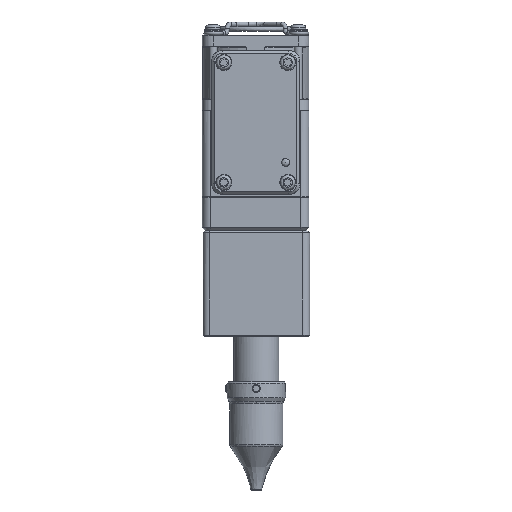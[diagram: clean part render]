
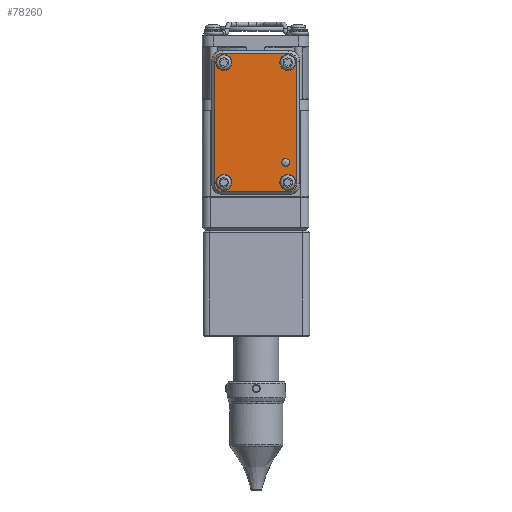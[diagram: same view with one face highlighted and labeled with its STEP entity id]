
A CAD part, front view. The second image highlights one B-rep face of the part: STEP entity #78260.
In plain terms, the highlighted free-form (B-spline) face has degree [1, 1] with [2, 2] control points.
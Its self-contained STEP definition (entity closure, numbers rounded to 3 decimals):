
#77972=CARTESIAN_POINT('',(-15.731,-33.699,63.381));
#77973=VERTEX_POINT('',#77972);
#77979=CARTESIAN_POINT('',(-12.731,-33.699,66.381));
#77980=VERTEX_POINT('',#77979);
#77981=CARTESIAN_POINT('',(-15.731,-33.699,63.381));
#77982=CARTESIAN_POINT('',(-15.731,-33.699,66.381));
#77983=CARTESIAN_POINT('',(-12.731,-33.699,66.381));
#77984=(BOUNDED_CURVE()B_SPLINE_CURVE(2,(#77981,#77982,#77983),.CIRCULAR_ARC.,.F.,.U.)B_SPLINE_CURVE_WITH_KNOTS((3,3),(0.,1.),.UNSPECIFIED.)CURVE()GEOMETRIC_REPRESENTATION_ITEM()RATIONAL_B_SPLINE_CURVE((1.,0.707,1.))REPRESENTATION_ITEM(''));
#77985=EDGE_CURVE('',#77973,#77980,#77984,.T.);
#78003=CARTESIAN_POINT('',(-15.731,-33.699,17.381));
#78004=VERTEX_POINT('',#78003);
#78010=CARTESIAN_POINT('',(-15.731,-33.699,17.381));
#78011=CARTESIAN_POINT('',(-15.731,-33.699,63.381));
#78012=B_SPLINE_CURVE_WITH_KNOTS('',1,(#78010,#78011),.POLYLINE_FORM.,.F.,.U.,(2,2),(0.,1.),.UNSPECIFIED.);
#78013=EDGE_CURVE('',#78004,#77973,#78012,.T.);
#78031=CARTESIAN_POINT('',(-12.731,-33.699,14.381));
#78032=VERTEX_POINT('',#78031);
#78038=CARTESIAN_POINT('',(-12.731,-33.699,14.381));
#78039=CARTESIAN_POINT('',(-13.974,-33.699,14.381));
#78040=CARTESIAN_POINT('',(-14.852,-33.699,15.26));
#78041=CARTESIAN_POINT('',(-15.731,-33.699,16.139));
#78042=CARTESIAN_POINT('',(-15.731,-33.699,17.381));
#78043=(BOUNDED_CURVE()B_SPLINE_CURVE(2,(#78038,#78039,#78040,#78041,#78042),.CIRCULAR_ARC.,.F.,.U.)B_SPLINE_CURVE_WITH_KNOTS((3,2,3),(0.,0.5,1.),.UNSPECIFIED.)CURVE()GEOMETRIC_REPRESENTATION_ITEM()RATIONAL_B_SPLINE_CURVE((1.,0.924,1.,0.924,1.))REPRESENTATION_ITEM(''));
#78044=EDGE_CURVE('',#78032,#78004,#78043,.T.);
#78056=CARTESIAN_POINT('',(12.269,-33.699,14.381));
#78057=VERTEX_POINT('',#78056);
#78063=CARTESIAN_POINT('',(12.269,-33.699,14.381));
#78064=CARTESIAN_POINT('',(-12.731,-33.699,14.381));
#78065=B_SPLINE_CURVE_WITH_KNOTS('',1,(#78063,#78064),.POLYLINE_FORM.,.F.,.U.,(2,2),(0.,1.),.UNSPECIFIED.);
#78066=EDGE_CURVE('',#78057,#78032,#78065,.T.);
#78084=CARTESIAN_POINT('',(15.269,-33.699,17.381));
#78085=VERTEX_POINT('',#78084);
#78091=CARTESIAN_POINT('',(15.269,-33.699,17.381));
#78092=CARTESIAN_POINT('',(15.269,-33.699,16.139));
#78093=CARTESIAN_POINT('',(14.39,-33.699,15.26));
#78094=CARTESIAN_POINT('',(13.512,-33.699,14.381));
#78095=CARTESIAN_POINT('',(12.269,-33.699,14.381));
#78096=(BOUNDED_CURVE()B_SPLINE_CURVE(2,(#78091,#78092,#78093,#78094,#78095),.CIRCULAR_ARC.,.F.,.U.)B_SPLINE_CURVE_WITH_KNOTS((3,2,3),(0.,0.5,1.),.UNSPECIFIED.)CURVE()GEOMETRIC_REPRESENTATION_ITEM()RATIONAL_B_SPLINE_CURVE((1.,0.924,1.,0.924,1.))REPRESENTATION_ITEM(''));
#78097=EDGE_CURVE('',#78085,#78057,#78096,.T.);
#78109=CARTESIAN_POINT('',(15.269,-33.699,63.381));
#78110=VERTEX_POINT('',#78109);
#78116=CARTESIAN_POINT('',(15.269,-33.699,63.381));
#78117=CARTESIAN_POINT('',(15.269,-33.699,17.381));
#78118=B_SPLINE_CURVE_WITH_KNOTS('',1,(#78116,#78117),.POLYLINE_FORM.,.F.,.U.,(2,2),(0.,1.),.UNSPECIFIED.);
#78119=EDGE_CURVE('',#78110,#78085,#78118,.T.);
#78137=CARTESIAN_POINT('',(12.269,-33.699,66.381));
#78138=VERTEX_POINT('',#78137);
#78144=CARTESIAN_POINT('',(12.269,-33.699,66.381));
#78145=CARTESIAN_POINT('',(13.512,-33.699,66.381));
#78146=CARTESIAN_POINT('',(14.39,-33.699,65.503));
#78147=CARTESIAN_POINT('',(15.269,-33.699,64.624));
#78148=CARTESIAN_POINT('',(15.269,-33.699,63.381));
#78149=(BOUNDED_CURVE()B_SPLINE_CURVE(2,(#78144,#78145,#78146,#78147,#78148),.CIRCULAR_ARC.,.F.,.U.)B_SPLINE_CURVE_WITH_KNOTS((3,2,3),(0.,0.5,1.),.UNSPECIFIED.)CURVE()GEOMETRIC_REPRESENTATION_ITEM()RATIONAL_B_SPLINE_CURVE((1.,0.924,1.,0.924,1.))REPRESENTATION_ITEM(''));
#78150=EDGE_CURVE('',#78138,#78110,#78149,.T.);
#78167=CARTESIAN_POINT('',(-12.731,-33.699,66.381));
#78168=CARTESIAN_POINT('',(12.269,-33.699,66.381));
#78169=B_SPLINE_CURVE_WITH_KNOTS('',1,(#78167,#78168),.POLYLINE_FORM.,.F.,.U.,(2,2),(0.,1.),.UNSPECIFIED.);
#78170=EDGE_CURVE('',#77980,#78138,#78169,.T.);
#78175=CARTESIAN_POINT('',(-19.431,-33.699,10.681));
#78176=CARTESIAN_POINT('',(-19.431,-33.699,70.081));
#78177=CARTESIAN_POINT('',(39.969,-33.699,10.681));
#78178=CARTESIAN_POINT('',(39.969,-33.699,70.081));
#78179=B_SPLINE_SURFACE_WITH_KNOTS('',1,1,((#78175,#78176),(#78177,#78178)),.PLANE_SURF.,.F.,.F.,.U.,(2,2),(2,2),(0.,1.),(0.,1.),.UNSPECIFIED.);
#78180=ORIENTED_EDGE('',*,*,#77985,.F.);
#78181=ORIENTED_EDGE('',*,*,#78013,.F.);
#78182=ORIENTED_EDGE('',*,*,#78044,.F.);
#78183=ORIENTED_EDGE('',*,*,#78066,.F.);
#78184=ORIENTED_EDGE('',*,*,#78097,.F.);
#78185=ORIENTED_EDGE('',*,*,#78119,.F.);
#78186=ORIENTED_EDGE('',*,*,#78150,.F.);
#78187=ORIENTED_EDGE('',*,*,#78170,.F.);
#78188=EDGE_LOOP('',(#78180,#78181,#78182,#78183,#78184,#78185,#78186,#78187));
#78189=FACE_OUTER_BOUND('',#78188,.T.);
#78190=CARTESIAN_POINT('',(14.769,-33.699,17.881));
#78191=VERTEX_POINT('',#78190);
#78192=CARTESIAN_POINT('',(14.769,-33.699,17.881));
#78193=CARTESIAN_POINT('',(14.769,-33.699,12.685));
#78194=CARTESIAN_POINT('',(10.269,-33.699,15.283));
#78195=CARTESIAN_POINT('',(5.769,-33.699,17.881));
#78196=CARTESIAN_POINT('',(10.269,-33.699,20.479));
#78197=CARTESIAN_POINT('',(14.769,-33.699,23.078));
#78198=CARTESIAN_POINT('',(14.769,-33.699,17.881));
#78199=(BOUNDED_CURVE()B_SPLINE_CURVE(2,(#78192,#78193,#78194,#78195,#78196,#78197,#78198),.CIRCULAR_ARC.,.T.,.U.)B_SPLINE_CURVE_WITH_KNOTS((3,2,2,3),(0.,0.333,0.667,1.),.UNSPECIFIED.)CURVE()GEOMETRIC_REPRESENTATION_ITEM()RATIONAL_B_SPLINE_CURVE((1.,0.5,1.,0.5,1.,0.5,1.))REPRESENTATION_ITEM(''));
#78200=EDGE_CURVE('',#78191,#78191,#78199,.T.);
#78201=ORIENTED_EDGE('',*,*,#78200,.T.);
#78202=EDGE_LOOP('',(#78201));
#78203=FACE_BOUND('',#78202,.T.);
#78204=CARTESIAN_POINT('',(-9.231,-33.699,62.881));
#78205=VERTEX_POINT('',#78204);
#78206=CARTESIAN_POINT('',(-9.231,-33.699,62.881));
#78207=CARTESIAN_POINT('',(-9.231,-33.699,57.685));
#78208=CARTESIAN_POINT('',(-13.731,-33.699,60.283));
#78209=CARTESIAN_POINT('',(-18.231,-33.699,62.881));
#78210=CARTESIAN_POINT('',(-13.731,-33.699,65.479));
#78211=CARTESIAN_POINT('',(-9.231,-33.699,68.078));
#78212=CARTESIAN_POINT('',(-9.231,-33.699,62.881));
#78213=(BOUNDED_CURVE()B_SPLINE_CURVE(2,(#78206,#78207,#78208,#78209,#78210,#78211,#78212),.CIRCULAR_ARC.,.T.,.U.)B_SPLINE_CURVE_WITH_KNOTS((3,2,2,3),(0.,0.333,0.667,1.),.UNSPECIFIED.)CURVE()GEOMETRIC_REPRESENTATION_ITEM()RATIONAL_B_SPLINE_CURVE((1.,0.5,1.,0.5,1.,0.5,1.))REPRESENTATION_ITEM(''));
#78214=EDGE_CURVE('',#78205,#78205,#78213,.T.);
#78215=ORIENTED_EDGE('',*,*,#78214,.T.);
#78216=EDGE_LOOP('',(#78215));
#78217=FACE_BOUND('',#78216,.T.);
#78218=CARTESIAN_POINT('',(14.769,-33.699,62.881));
#78219=VERTEX_POINT('',#78218);
#78220=CARTESIAN_POINT('',(14.769,-33.699,62.881));
#78221=CARTESIAN_POINT('',(14.769,-33.699,57.685));
#78222=CARTESIAN_POINT('',(10.269,-33.699,60.283));
#78223=CARTESIAN_POINT('',(5.769,-33.699,62.881));
#78224=CARTESIAN_POINT('',(10.269,-33.699,65.479));
#78225=CARTESIAN_POINT('',(14.769,-33.699,68.078));
#78226=CARTESIAN_POINT('',(14.769,-33.699,62.881));
#78227=(BOUNDED_CURVE()B_SPLINE_CURVE(2,(#78220,#78221,#78222,#78223,#78224,#78225,#78226),.CIRCULAR_ARC.,.T.,.U.)B_SPLINE_CURVE_WITH_KNOTS((3,2,2,3),(0.,0.333,0.667,1.),.UNSPECIFIED.)CURVE()GEOMETRIC_REPRESENTATION_ITEM()RATIONAL_B_SPLINE_CURVE((1.,0.5,1.,0.5,1.,0.5,1.))REPRESENTATION_ITEM(''));
#78228=EDGE_CURVE('',#78219,#78219,#78227,.T.);
#78229=ORIENTED_EDGE('',*,*,#78228,.T.);
#78230=EDGE_LOOP('',(#78229));
#78231=FACE_BOUND('',#78230,.T.);
#78232=CARTESIAN_POINT('',(-9.231,-33.699,17.881));
#78233=VERTEX_POINT('',#78232);
#78234=CARTESIAN_POINT('',(-9.231,-33.699,17.881));
#78235=CARTESIAN_POINT('',(-9.231,-33.699,12.685));
#78236=CARTESIAN_POINT('',(-13.731,-33.699,15.283));
#78237=CARTESIAN_POINT('',(-18.231,-33.699,17.881));
#78238=CARTESIAN_POINT('',(-13.731,-33.699,20.479));
#78239=CARTESIAN_POINT('',(-9.231,-33.699,23.078));
#78240=CARTESIAN_POINT('',(-9.231,-33.699,17.881));
#78241=(BOUNDED_CURVE()B_SPLINE_CURVE(2,(#78234,#78235,#78236,#78237,#78238,#78239,#78240),.CIRCULAR_ARC.,.T.,.U.)B_SPLINE_CURVE_WITH_KNOTS((3,2,2,3),(0.,0.333,0.667,1.),.UNSPECIFIED.)CURVE()GEOMETRIC_REPRESENTATION_ITEM()RATIONAL_B_SPLINE_CURVE((1.,0.5,1.,0.5,1.,0.5,1.))REPRESENTATION_ITEM(''));
#78242=EDGE_CURVE('',#78233,#78233,#78241,.T.);
#78243=ORIENTED_EDGE('',*,*,#78242,.T.);
#78244=EDGE_LOOP('',(#78243));
#78245=FACE_BOUND('',#78244,.T.);
#78246=CARTESIAN_POINT('',(12.519,-33.699,25.381));
#78247=VERTEX_POINT('',#78246);
#78248=CARTESIAN_POINT('',(12.519,-33.699,25.381));
#78249=CARTESIAN_POINT('',(12.519,-33.699,22.783));
#78250=CARTESIAN_POINT('',(10.269,-33.699,24.082));
#78251=CARTESIAN_POINT('',(8.019,-33.699,25.381));
#78252=CARTESIAN_POINT('',(10.269,-33.699,26.68));
#78253=CARTESIAN_POINT('',(12.519,-33.699,27.979));
#78254=CARTESIAN_POINT('',(12.519,-33.699,25.381));
#78255=(BOUNDED_CURVE()B_SPLINE_CURVE(2,(#78248,#78249,#78250,#78251,#78252,#78253,#78254),.CIRCULAR_ARC.,.T.,.U.)B_SPLINE_CURVE_WITH_KNOTS((3,2,2,3),(0.,0.333,0.667,1.),.UNSPECIFIED.)CURVE()GEOMETRIC_REPRESENTATION_ITEM()RATIONAL_B_SPLINE_CURVE((1.,0.5,1.,0.5,1.,0.5,1.))REPRESENTATION_ITEM(''));
#78256=EDGE_CURVE('',#78247,#78247,#78255,.T.);
#78257=ORIENTED_EDGE('',*,*,#78256,.T.);
#78258=EDGE_LOOP('',(#78257));
#78259=FACE_BOUND('',#78258,.T.);
#78260=ADVANCED_FACE('',(#78189,#78203,#78217,#78231,#78245,#78259),#78179,.T.);
